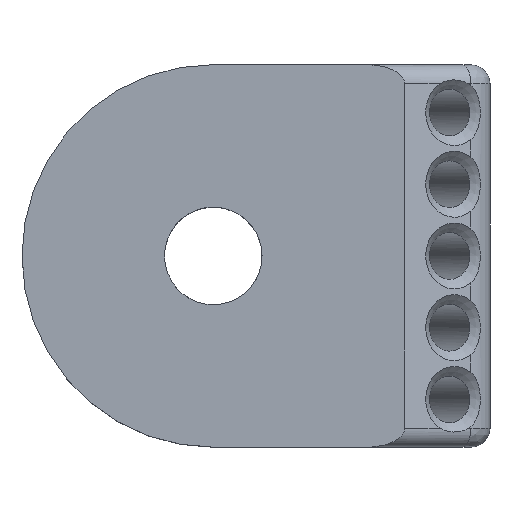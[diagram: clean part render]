
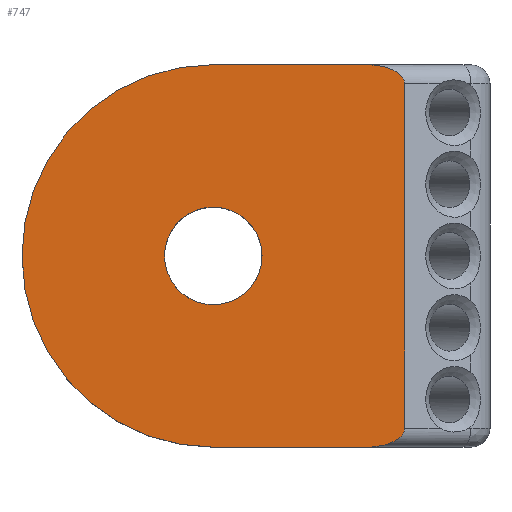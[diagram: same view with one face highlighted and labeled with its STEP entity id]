
A CAD part, top view. The second image highlights one B-rep face of the part: STEP entity #747.
In plain terms, the highlighted planar face has unit normal (0, 0, 1).
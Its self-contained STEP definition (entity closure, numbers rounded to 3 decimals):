
#16=FACE_BOUND('',#109,.T.);
#25=PLANE('',#836);
#71=FACE_OUTER_BOUND('',#108,.T.);
#108=EDGE_LOOP('',(#688,#689,#690,#691,#692,#693));
#109=EDGE_LOOP('',(#694));
#168=CIRCLE('',#820,2.55);
#169=CIRCLE('',#822,10.);
#207=LINE('',#1406,#256);
#212=LINE('',#1422,#261);
#214=LINE('',#1426,#263);
#256=VECTOR('',#1007,10.);
#261=VECTOR('',#1026,10.);
#263=VECTOR('',#1032,10.);
#271=ELLIPSE('',#751,2.,1.);
#274=ELLIPSE('',#773,2.,1.);
#275=VERTEX_POINT('',#1064);
#276=VERTEX_POINT('',#1065);
#299=VERTEX_POINT('',#1161);
#300=VERTEX_POINT('',#1163);
#341=VERTEX_POINT('',#1412);
#342=VERTEX_POINT('',#1416);
#343=VERTEX_POINT('',#1418);
#347=EDGE_CURVE('',#275,#276,#271,.T.);
#378=EDGE_CURVE('',#299,#300,#274,.T.);
#442=EDGE_CURVE('',#275,#300,#207,.T.);
#446=EDGE_CURVE('',#341,#341,#168,.T.);
#448=EDGE_CURVE('',#342,#343,#169,.T.);
#450=EDGE_CURVE('',#343,#299,#212,.T.);
#452=EDGE_CURVE('',#342,#276,#214,.T.);
#688=ORIENTED_EDGE('',*,*,#347,.F.);
#689=ORIENTED_EDGE('',*,*,#442,.T.);
#690=ORIENTED_EDGE('',*,*,#378,.F.);
#691=ORIENTED_EDGE('',*,*,#450,.F.);
#692=ORIENTED_EDGE('',*,*,#448,.F.);
#693=ORIENTED_EDGE('',*,*,#452,.T.);
#694=ORIENTED_EDGE('',*,*,#446,.T.);
#747=ADVANCED_FACE('',(#71,#16),#25,.T.);
#751=AXIS2_PLACEMENT_3D('',#1066,#841,#842);
#773=AXIS2_PLACEMENT_3D('',#1164,#898,#899);
#820=AXIS2_PLACEMENT_3D('',#1414,#1016,#1017);
#822=AXIS2_PLACEMENT_3D('',#1419,#1021,#1022);
#836=AXIS2_PLACEMENT_3D('',#1447,#1060,#1061);
#841=DIRECTION('center_axis',(0.,0.,-1.));
#842=DIRECTION('ref_axis',(1.,0.,0.));
#898=DIRECTION('center_axis',(0.,0.,-1.));
#899=DIRECTION('ref_axis',(1.,0.,0.));
#1007=DIRECTION('',(0.,1.,0.));
#1016=DIRECTION('center_axis',(0.,0.,-1.));
#1017=DIRECTION('ref_axis',(-1.,0.,0.));
#1021=DIRECTION('center_axis',(0.,0.,-1.));
#1022=DIRECTION('ref_axis',(-0.707,0.707,0.));
#1026=DIRECTION('',(1.,0.,0.));
#1032=DIRECTION('',(1.,0.,0.));
#1060=DIRECTION('center_axis',(0.,0.,1.));
#1061=DIRECTION('ref_axis',(1.,0.,0.));
#1064=CARTESIAN_POINT('',(-248.,-299.,225.234));
#1065=CARTESIAN_POINT('',(-250.,-300.,225.234));
#1066=CARTESIAN_POINT('Origin',(-250.,-299.,225.234));
#1161=CARTESIAN_POINT('',(-250.,-280.,225.234));
#1163=CARTESIAN_POINT('',(-248.,-281.,225.234));
#1164=CARTESIAN_POINT('Origin',(-250.,-281.,225.234));
#1406=CARTESIAN_POINT('',(-248.,-300.,225.234));
#1412=CARTESIAN_POINT('',(-255.45,-290.,225.234));
#1414=CARTESIAN_POINT('Origin',(-258.,-290.,225.234));
#1416=CARTESIAN_POINT('',(-258.,-300.,225.234));
#1418=CARTESIAN_POINT('',(-258.,-280.,225.234));
#1419=CARTESIAN_POINT('Origin',(-258.,-290.,225.234));
#1422=CARTESIAN_POINT('',(-268.,-280.,225.234));
#1426=CARTESIAN_POINT('',(-268.,-300.,225.234));
#1447=CARTESIAN_POINT('Origin',(-268.,-300.,225.234));
